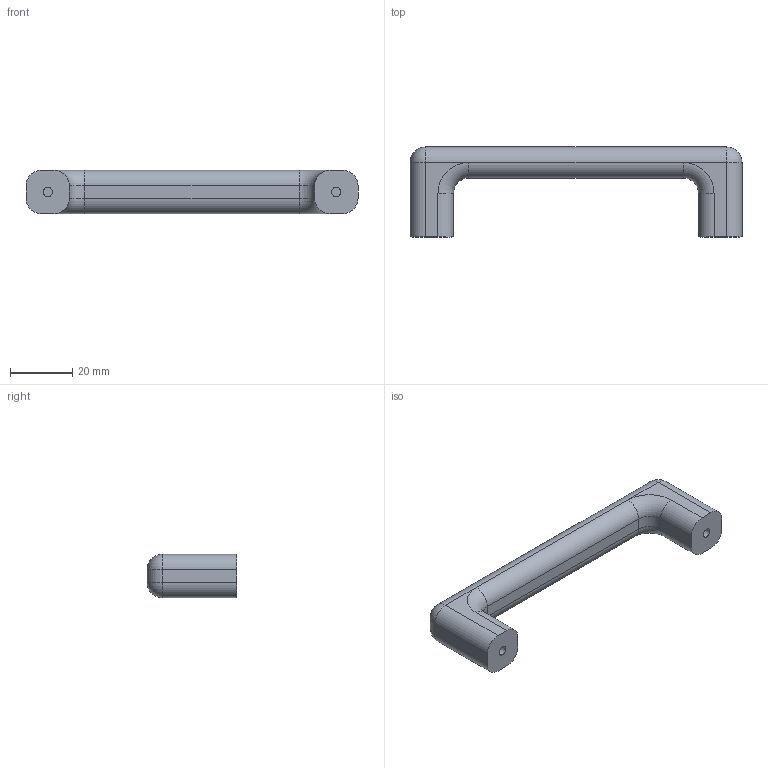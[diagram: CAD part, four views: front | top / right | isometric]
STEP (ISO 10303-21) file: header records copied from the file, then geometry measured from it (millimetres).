
FILE_DESCRIPTION (( 'STEP AP203' ), '1' );
FILE_NAME ('Poignée_Porte.STEP', '2026-06-24T07:29:50', ( '' ), ( '' ), 'SwSTEP 2.0', 'SolidWorks 2024', '' );
FILE_SCHEMA (( 'CONFIG_CONTROL_DESIGN' ));
Length unit declared in the file: millimetre
Products named in the file (1): Poignée_Porte
Bounding box: 107 x 29 x 14 mm (x, y, z)
Volume: 19423.5 mm3; surface area: 6301.6 mm2
Topology: 1 solids, 1 shells, 40 faces, 88 edges, 48 vertices
Faces by surface type: cylinder 18, plane 14, sphere 4, torus 4
Full cylindrical faces by diameter (mm): 3 x2
Entity records: 1121 total; most frequent: DIRECTION 204, CARTESIAN_POINT 171, ORIENTED_EDGE 164, EDGE_CURVE 82, AXIS2_PLACEMENT_3D 81, VERTEX_POINT 48, EDGE_LOOP 44, FACE_OUTER_BOUND 42
